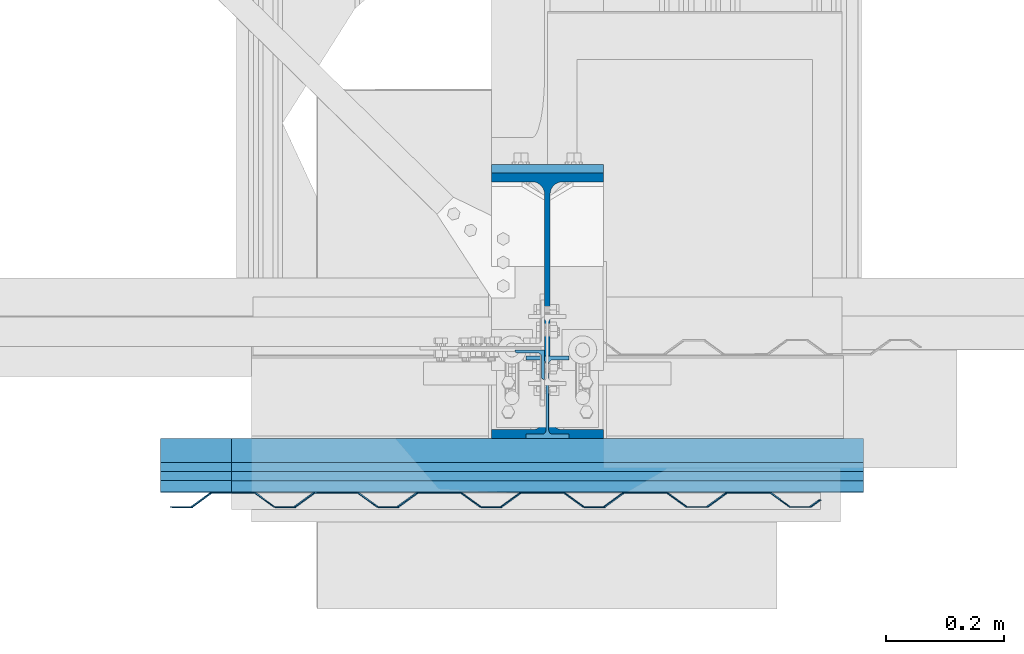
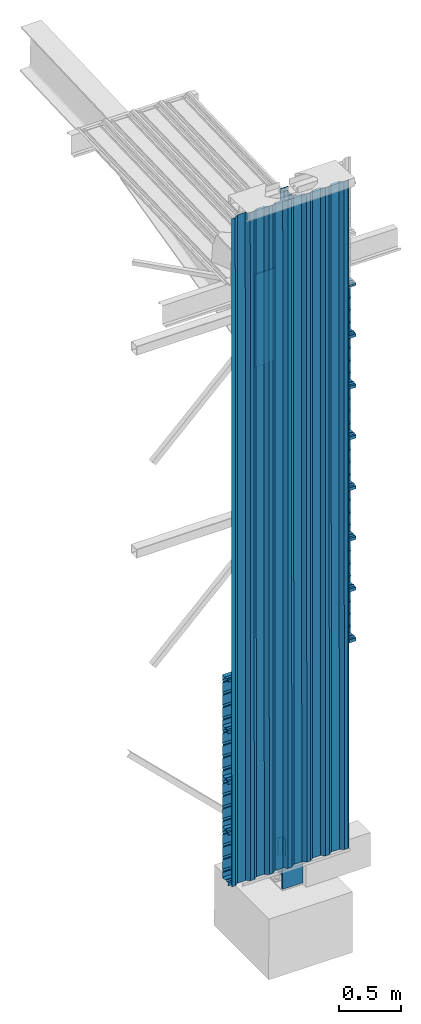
# One storey, part 1 of 18: 12 beams, 4 columns, 16 elements without a shape of their own.
"""IFC2X3 building model written with IfcOpenShell, lengths in millimetres."""

from ifc_helpers import new_model, si_unit, frame, origin_with_axes, origin_2d_with_axis, place, context, subcontext, project, spatial, polyline, rectangle, i_section, l_section, outline, extrude, clip, halfspace, material, type_object, element, aggregate, save


model = new_model("IFC2X3")

# Units and contexts
model_context = context("Model", 3, precision=1e-05, world=origin_with_axes())
body_context = subcontext(model_context, "Body", "Model", "MODEL_VIEW")
ifc_project = project(units=[si_unit("LENGTHUNIT", "METRE", prefix="MILLI"), si_unit("AREAUNIT", "SQUARE_METRE"), si_unit("VOLUMEUNIT", "CUBIC_METRE"), si_unit("MASSUNIT", "GRAM", prefix="KILO"), si_unit("TIMEUNIT", "SECOND"), si_unit("PLANEANGLEUNIT", "RADIAN"), si_unit("SOLIDANGLEUNIT", "STERADIAN"), si_unit("THERMODYNAMICTEMPERATUREUNIT", "DEGREE_CELSIUS"), si_unit("LUMINOUSINTENSITYUNIT", "LUMEN")], contexts=[model_context])

# Site, building, storey
site_placement = place(None, origin_with_axes())
site = spatial("IfcSite", under=ifc_project, at=site_placement, Name="Undefined", CompositionType="ELEMENT")
building_placement = place(site_placement, origin_with_axes())
building = spatial("IfcBuilding", under=site, at=building_placement, Name="Undefined", CompositionType="ELEMENT")
storey_placement = place(building_placement, origin_with_axes())
storey = spatial("IfcBuildingStorey", under=building, at=storey_placement, Name="Undefined", CompositionType="ELEMENT", Elevation=0.0)

# Assembly, column
assembly_1_placement = place(storey_placement, frame((6.79351009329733e-10, 8.99280863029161, 5275.17920428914), z_axis=(1.5865100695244e-13, -0.0399680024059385, 0.999200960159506), x_axis=(-7.50761682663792e-14, 0.999200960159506, 0.0399680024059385)))
assembly_1 = element("IfcElementAssembly", 1, at=assembly_1_placement, inside=storey, Name="POUTRE", PredefinedType="NOTDEFINED")
ifc_material = material(Name="STEEL/S235JR")
column_type_1 = type_object("IfcColumnType", Name="PL15*190", PredefinedType="NOTDEFINED")
column_1_placement = place(storey_placement, frame((5.54948160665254e-10, 232.500000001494, 4588.99989452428), z_axis=(0.0, 0.0, 1.0), x_axis=(1.0, 0.0, 0.0)))
column_1 = element("IfcColumn", 2, at=column_1_placement, type_object=column_type_1, material=ifc_material, Name="PLATINE", ObjectType="PL15*190", context=body_context, shape_type="SweptSolid", body=[
    extrude(rectangle(XDim=15.0, YDim=190.0, at=origin_2d_with_axis()), frame((1.42304013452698e-10, 4.01939814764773e-10, 914.999517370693), z_axis=(2.350712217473e-13, -3.38692037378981e-13, -1.0), x_axis=(0.0, 1.0, 0.0)), (0.0, 0.0, 1.0), 914.999517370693),
])
aggregate(assembly_1, [column_1])

assembly_2_placement = place(storey_placement, frame((7.29021710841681e-10, -154.999999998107, 5499.99998252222), z_axis=(0.0, 1.0, 0.0), x_axis=(0.0, 0.0, 1.0)))
assembly_2 = element("IfcElementAssembly", 3, at=assembly_2_placement, inside=storey, Name="Baïonnette", PredefinedType="NOTDEFINED")
column_type_2 = type_object("IfcColumnType", Name="IPE140", PredefinedType="NOTDEFINED")
column_2_placement = place(storey_placement, frame((7.29021710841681e-10, -154.999999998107, 5499.99998252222), z_axis=(0.0, 0.0, 1.0), x_axis=(1.0, 0.0, 0.0)))
column_2 = element("IfcColumn", 4, at=column_2_placement, type_object=column_type_2, material=ifc_material, Name="BAIONNETTE", ObjectType="IPE140", context=body_context, shape_type="Clipping", body=[
    clip(extrude(i_section(OverallWidth=73.0, OverallDepth=140.0, WebThickness=4.699999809, FlangeThickness=6.900000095, FilletRadius=7.0, at=origin_2d_with_axis()), frame((1.58945092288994e-10, 0.000255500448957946, 1022.00000000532), z_axis=(2.350712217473e-13, -3.38692037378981e-13, -1.0), x_axis=(-1.0, 0.0, 0.0)), (0.0, 0.0, 1.0), 1022.00000000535), halfspace(frame((36.5000000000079, -69.9999999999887, 13.9994293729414), z_axis=(2.350712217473e-13, -3.38692037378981e-13, -1.0), x_axis=(0.0, 1.0, 0.0)), False)),
])
aggregate(assembly_2, [column_2])

assembly_3_placement = place(storey_placement, frame((2.06348271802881e-11, 3.86737777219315e-11, -299.999999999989), z_axis=(0.0, 1.0, 0.0), x_axis=(0.0, 0.0, 1.0)))
assembly_3 = element("IfcElementAssembly", 5, at=assembly_3_placement, inside=storey, Name="POTEAU", PredefinedType="NOTDEFINED")
column_type_3 = type_object("IfcColumnType", Name="IPE450", PredefinedType="NOTDEFINED")
column_3_placement = place(storey_placement, frame((2.06348271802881e-11, 3.86737777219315e-11, -299.999999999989), z_axis=(0.0, 0.0, 1.0), x_axis=(1.0, 0.0, 0.0)))
column_3 = element("IfcColumn", 6, at=column_3_placement, type_object=column_type_3, material=ifc_material, Name="POTEAU", ObjectType="IPE450", context=body_context, shape_type="SweptSolid", body=[
    extrude(i_section(OverallWidth=190.0, OverallDepth=450.0, WebThickness=9.399999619, FlangeThickness=14.60000038, FilletRadius=21.0, at=origin_2d_with_axis()), frame((9.02658848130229e-10, 2.54961534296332e-09, 5803.99941189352), z_axis=(2.350712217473e-13, -3.38692037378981e-13, -1.0), x_axis=(-1.0, 0.0, 0.0)), (0.0, 0.0, 1.0), 5788.99941189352),
])
aggregate(assembly_3, [column_3])

assembly_4_placement = place(storey_placement, frame((-29.6999998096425, -99.9952071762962, -54.4168216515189), z_axis=(-1.0, 0.0, 0.0), x_axis=(4.07648518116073e-14, -3.19109991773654e-05, 0.999999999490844)))
assembly_4 = element("IfcElementAssembly", 7, at=assembly_4_placement, inside=storey, Name="CV", PredefinedType="NOTDEFINED")
column_type_4 = type_object("IfcColumnType", Name="L50*5", PredefinedType="NOTDEFINED")
column_4_placement = place(storey_placement, frame((-29.6999998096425, -99.9952071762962, -54.4168216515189), z_axis=(0.0, 0.0, 1.0), x_axis=(1.0, 0.0, 0.0)))
column_4 = element("IfcColumn", 8, at=column_4_placement, type_object=column_type_4, material=ifc_material, Name="ATTACHE CV", ObjectType="L50*5", context=body_context, shape_type="SweptSolid", body=[
    extrude(l_section(Depth=50.0, Width=50.0, Thickness=5.0, FilletRadius=7.0, EdgeRadius=3.5, at=origin_2d_with_axis()), frame((2.72173394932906e-11, -0.00558442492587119, 174.999999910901), z_axis=(2.35338842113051e-13, 3.18999996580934e-05, -0.999999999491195), x_axis=(2.86064505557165e-14, -0.999999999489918, -3.19400002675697e-05)), (0.0, 0.0, 1.0), 175.000000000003),
])
aggregate(assembly_4, [column_4])

# Assembly, beam
assembly_5_placement = place(storey_placement, frame((-656.499909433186, -270.908790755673, 279.851131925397), z_axis=(0.0, 0.999999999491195, 3.190000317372e-05), x_axis=(1.0, 0.0, 0.0)))
assembly_5 = element("IfcElementAssembly", 9, at=assembly_5_placement, inside=storey, Name="bac", PredefinedType="NOTDEFINED")
beam_type_1 = type_object("IfcBeamType", Name="ARCLAD_FPB_MURESCO_1.500.90_BS_75", PredefinedType="NOTDEFINED")
beam_1_placement = place(storey_placement, frame((-656.499909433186, -270.908790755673, 279.851131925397), z_axis=(0.0, 0.999999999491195, 3.190000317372e-05), x_axis=(1.0, 0.0, 0.0)))
beam_1 = element("IfcBeam", 10, at=beam_1_placement, type_object=beam_type_1, material=ifc_material, Name="BAC", ObjectType="ARCLAD_FPB_MURESCO_1.500.90_BS_75", context=body_context, shape_type="SweptSolid", body=[
    extrude(outline(polyline([(-278.0, -36.0), (-279.0, -36.0), (-279.0, -46.0), (-249.0, -46.0), (-249.0, -26.3500003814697), (-241.050003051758, -10.6700000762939), (-249.0, 5.01999998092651), (-249.0, 45.0), (-200.679992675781, 45.0), (-185.0, 37.0499992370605), (-169.320007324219, 45.0), (-77.3499984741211, 45.0), (-61.6699981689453, 37.0499992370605), (-45.9799995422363, 45.0), (45.9799995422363, 45.0), (61.6699981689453, 37.0499992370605), (77.3499984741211, 45.0), (169.320007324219, 45.0), (185.0, 37.0499992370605), (200.679992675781, 45.0), (249.0, 45.0), (249.0, 5.01999998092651), (241.050003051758, -10.6700000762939), (249.0, -26.3500003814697), (249.0, -44.0), (230.330001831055, -44.0), (225.949996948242, -40.7400016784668), (225.350006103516, -41.5400009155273), (230.0, -45.0), (250.0, -45.0), (250.0, -26.1100006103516), (242.169998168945, -10.6700000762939), (250.0, 4.78000020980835), (250.0, 46.0), (200.440002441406, 46.0), (185.0, 38.1699981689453), (169.559997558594, 46.0), (77.1100006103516, 46.0), (61.6699981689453, 38.1699981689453), (46.2200012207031, 46.0), (-46.2200012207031, 46.0), (-61.6699981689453, 38.1699981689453), (-77.1100006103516, 46.0), (-169.559997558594, 46.0), (-185.0, 38.1699981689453), (-200.440002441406, 46.0), (-250.0, 46.0), (-250.0, 4.78000020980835), (-242.169998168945, -10.6700000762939), (-250.0, -26.1100006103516), (-250.0, -45.0), (-278.0, -45.0), (-278.0, -36.0)])), frame((1073.0, 0.0, -3.55441926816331e-28), z_axis=(-1.0, 0.0, 0.0), x_axis=(0.0, -1.0, -6.7762635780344e-21)), (0.0, 0.0, 1.0), 1073.0),
])
aggregate(assembly_5, [beam_1])

assembly_6_placement = place(storey_placement, frame((-656.499909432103, -270.908790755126, 779.851131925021), z_axis=(0.0, 0.999999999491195, 3.190000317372e-05), x_axis=(1.0, 0.0, 0.0)))
assembly_6 = element("IfcElementAssembly", 11, at=assembly_6_placement, inside=storey, Name="bac", PredefinedType="NOTDEFINED")
beam_2_placement = place(storey_placement, frame((-656.499909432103, -270.908790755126, 779.851131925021), z_axis=(0.0, 0.999999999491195, 3.190000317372e-05), x_axis=(1.0, 0.0, 0.0)))
beam_2 = element("IfcBeam", 12, at=beam_2_placement, type_object=beam_type_1, material=ifc_material, Name="BAC", ObjectType="ARCLAD_FPB_MURESCO_1.500.90_BS_75", context=body_context, shape_type="SweptSolid", body=[
    extrude(outline(polyline([(-278.0, -36.0), (-279.0, -36.0), (-279.0, -46.0), (-249.0, -46.0), (-249.0, -26.3500003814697), (-241.050003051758, -10.6700000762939), (-249.0, 5.01999998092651), (-249.0, 45.0), (-200.679992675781, 45.0), (-185.0, 37.0499992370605), (-169.320007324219, 45.0), (-77.3499984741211, 45.0), (-61.6699981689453, 37.0499992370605), (-45.9799995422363, 45.0), (45.9799995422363, 45.0), (61.6699981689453, 37.0499992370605), (77.3499984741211, 45.0), (169.320007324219, 45.0), (185.0, 37.0499992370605), (200.679992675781, 45.0), (249.0, 45.0), (249.0, 5.01999998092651), (241.050003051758, -10.6700000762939), (249.0, -26.3500003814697), (249.0, -44.0), (230.330001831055, -44.0), (225.949996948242, -40.7400016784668), (225.350006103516, -41.5400009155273), (230.0, -45.0), (250.0, -45.0), (250.0, -26.1100006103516), (242.169998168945, -10.6700000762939), (250.0, 4.78000020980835), (250.0, 46.0), (200.440002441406, 46.0), (185.0, 38.1699981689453), (169.559997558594, 46.0), (77.1100006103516, 46.0), (61.6699981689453, 38.1699981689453), (46.2200012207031, 46.0), (-46.2200012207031, 46.0), (-61.6699981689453, 38.1699981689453), (-77.1100006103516, 46.0), (-169.559997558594, 46.0), (-185.0, 38.1699981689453), (-200.440002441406, 46.0), (-250.0, 46.0), (-250.0, 4.78000020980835), (-242.169998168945, -10.6700000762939), (-250.0, -26.1100006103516), (-250.0, -45.0), (-278.0, -45.0), (-278.0, -36.0)])), frame((1073.0, 0.0, -3.55441926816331e-28), z_axis=(-1.0, 0.0, 0.0), x_axis=(0.0, -1.0, -6.7762635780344e-21)), (0.0, 0.0, 1.0), 1073.0),
])
aggregate(assembly_6, [beam_2])

assembly_7_placement = place(storey_placement, frame((-656.499909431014, -270.908790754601, 1279.85113192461), z_axis=(0.0, 0.999999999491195, 3.190000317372e-05), x_axis=(1.0, 0.0, 0.0)))
assembly_7 = element("IfcElementAssembly", 13, at=assembly_7_placement, inside=storey, Name="bac", PredefinedType="NOTDEFINED")
beam_3_placement = place(storey_placement, frame((-656.499909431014, -270.908790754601, 1279.85113192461), z_axis=(0.0, 0.999999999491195, 3.190000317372e-05), x_axis=(1.0, 0.0, 0.0)))
beam_3 = element("IfcBeam", 14, at=beam_3_placement, type_object=beam_type_1, material=ifc_material, Name="BAC", ObjectType="ARCLAD_FPB_MURESCO_1.500.90_BS_75", context=body_context, shape_type="SweptSolid", body=[
    extrude(outline(polyline([(-278.0, -36.0), (-279.0, -36.0), (-279.0, -46.0), (-249.0, -46.0), (-249.0, -26.3500003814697), (-241.050003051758, -10.6700000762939), (-249.0, 5.01999998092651), (-249.0, 45.0), (-200.679992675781, 45.0), (-185.0, 37.0499992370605), (-169.320007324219, 45.0), (-77.3499984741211, 45.0), (-61.6699981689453, 37.0499992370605), (-45.9799995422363, 45.0), (45.9799995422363, 45.0), (61.6699981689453, 37.0499992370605), (77.3499984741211, 45.0), (169.320007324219, 45.0), (185.0, 37.0499992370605), (200.679992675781, 45.0), (249.0, 45.0), (249.0, 5.01999998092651), (241.050003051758, -10.6700000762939), (249.0, -26.3500003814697), (249.0, -44.0), (230.330001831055, -44.0), (225.949996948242, -40.7400016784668), (225.350006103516, -41.5400009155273), (230.0, -45.0), (250.0, -45.0), (250.0, -26.1100006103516), (242.169998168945, -10.6700000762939), (250.0, 4.78000020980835), (250.0, 46.0), (200.440002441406, 46.0), (185.0, 38.1699981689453), (169.559997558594, 46.0), (77.1100006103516, 46.0), (61.6699981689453, 38.1699981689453), (46.2200012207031, 46.0), (-46.2200012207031, 46.0), (-61.6699981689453, 38.1699981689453), (-77.1100006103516, 46.0), (-169.559997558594, 46.0), (-185.0, 38.1699981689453), (-200.440002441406, 46.0), (-250.0, 46.0), (-250.0, 4.78000020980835), (-242.169998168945, -10.6700000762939), (-250.0, -26.1100006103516), (-250.0, -45.0), (-278.0, -45.0), (-278.0, -36.0)])), frame((1073.0, 0.0, -3.55441926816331e-28), z_axis=(-1.0, 0.0, 0.0), x_axis=(0.0, -1.0, -6.7762635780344e-21)), (0.0, 0.0, 1.0), 1073.0),
])
aggregate(assembly_7, [beam_3])

assembly_8_placement = place(storey_placement, frame((-656.499909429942, -270.908790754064, 1779.85113192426), z_axis=(0.0, 0.999999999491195, 3.190000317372e-05), x_axis=(1.0, 0.0, 0.0)))
assembly_8 = element("IfcElementAssembly", 15, at=assembly_8_placement, inside=storey, Name="bac", PredefinedType="NOTDEFINED")
beam_4_placement = place(storey_placement, frame((-656.499909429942, -270.908790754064, 1779.85113192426), z_axis=(0.0, 0.999999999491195, 3.190000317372e-05), x_axis=(1.0, 0.0, 0.0)))
beam_4 = element("IfcBeam", 16, at=beam_4_placement, type_object=beam_type_1, material=ifc_material, Name="BAC", ObjectType="ARCLAD_FPB_MURESCO_1.500.90_BS_75", context=body_context, shape_type="SweptSolid", body=[
    extrude(outline(polyline([(-278.0, -36.0), (-279.0, -36.0), (-279.0, -46.0), (-249.0, -46.0), (-249.0, -26.3500003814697), (-241.050003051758, -10.6700000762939), (-249.0, 5.01999998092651), (-249.0, 45.0), (-200.679992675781, 45.0), (-185.0, 37.0499992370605), (-169.320007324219, 45.0), (-77.3499984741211, 45.0), (-61.6699981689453, 37.0499992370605), (-45.9799995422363, 45.0), (45.9799995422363, 45.0), (61.6699981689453, 37.0499992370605), (77.3499984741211, 45.0), (169.320007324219, 45.0), (185.0, 37.0499992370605), (200.679992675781, 45.0), (249.0, 45.0), (249.0, 5.01999998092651), (241.050003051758, -10.6700000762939), (249.0, -26.3500003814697), (249.0, -44.0), (230.330001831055, -44.0), (225.949996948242, -40.7400016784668), (225.350006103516, -41.5400009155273), (230.0, -45.0), (250.0, -45.0), (250.0, -26.1100006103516), (242.169998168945, -10.6700000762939), (250.0, 4.78000020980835), (250.0, 46.0), (200.440002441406, 46.0), (185.0, 38.1699981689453), (169.559997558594, 46.0), (77.1100006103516, 46.0), (61.6699981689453, 38.1699981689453), (46.2200012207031, 46.0), (-46.2200012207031, 46.0), (-61.6699981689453, 38.1699981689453), (-77.1100006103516, 46.0), (-169.559997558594, 46.0), (-185.0, 38.1699981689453), (-200.440002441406, 46.0), (-250.0, 46.0), (-250.0, 4.78000020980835), (-242.169998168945, -10.6700000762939), (-250.0, -26.1100006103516), (-250.0, -45.0), (-278.0, -45.0), (-278.0, -36.0)])), frame((1073.0, 0.0, -3.55441926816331e-28), z_axis=(-1.0, 0.0, 0.0), x_axis=(0.0, -1.0, -6.7762635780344e-21)), (0.0, 0.0, 1.0), 1073.0),
])
aggregate(assembly_8, [beam_4])

assembly_9_placement = place(storey_placement, frame((-536.50000000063, -270.912265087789, 2279.99853221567), z_axis=(0.0, 0.999999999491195, 3.190000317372e-05), x_axis=(1.0, 0.0, 0.0)))
assembly_9 = element("IfcElementAssembly", 17, at=assembly_9_placement, inside=storey, Name="bac", PredefinedType="NOTDEFINED")
beam_5_placement = place(storey_placement, frame((-536.50000000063, -270.912265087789, 2279.99853221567), z_axis=(0.0, 0.999999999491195, 3.190000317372e-05), x_axis=(1.0, 0.0, 0.0)))
beam_5 = element("IfcBeam", 18, at=beam_5_placement, type_object=beam_type_1, material=ifc_material, Name="BAC", ObjectType="ARCLAD_FPB_MURESCO_1.500.90_BS_75", context=body_context, shape_type="SweptSolid", body=[
    extrude(outline(polyline([(-278.0, -36.0), (-279.0, -36.0), (-279.0, -46.0), (-249.0, -46.0), (-249.0, -26.3500003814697), (-241.050003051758, -10.6700000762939), (-249.0, 5.01999998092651), (-249.0, 45.0), (-200.679992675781, 45.0), (-185.0, 37.0499992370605), (-169.320007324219, 45.0), (-77.3499984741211, 45.0), (-61.6699981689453, 37.0499992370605), (-45.9799995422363, 45.0), (45.9799995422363, 45.0), (61.6699981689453, 37.0499992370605), (77.3499984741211, 45.0), (169.320007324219, 45.0), (185.0, 37.0499992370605), (200.679992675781, 45.0), (249.0, 45.0), (249.0, 5.01999998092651), (241.050003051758, -10.6700000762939), (249.0, -26.3500003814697), (249.0, -44.0), (230.330001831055, -44.0), (225.949996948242, -40.7400016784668), (225.350006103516, -41.5400009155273), (230.0, -45.0), (250.0, -45.0), (250.0, -26.1100006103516), (242.169998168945, -10.6700000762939), (250.0, 4.78000020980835), (250.0, 46.0), (200.440002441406, 46.0), (185.0, 38.1699981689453), (169.559997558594, 46.0), (77.1100006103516, 46.0), (61.6699981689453, 38.1699981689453), (46.2200012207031, 46.0), (-46.2200012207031, 46.0), (-61.6699981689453, 38.1699981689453), (-77.1100006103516, 46.0), (-169.559997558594, 46.0), (-185.0, 38.1699981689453), (-200.440002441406, 46.0), (-250.0, 46.0), (-250.0, 4.78000020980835), (-242.169998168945, -10.6700000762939), (-250.0, -26.1100006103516), (-250.0, -45.0), (-278.0, -45.0), (-278.0, -36.0)])), frame((1073.0, 0.0, -3.55441926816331e-28), z_axis=(-1.0, 0.0, 0.0), x_axis=(0.0, -1.0, -6.7762635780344e-21)), (0.0, 0.0, 1.0), 1073.0),
])
aggregate(assembly_9, [beam_5])

assembly_10_placement = place(storey_placement, frame((-536.500000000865, -270.912265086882, 3279.99853221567), z_axis=(0.0, 0.999999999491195, 3.190000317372e-05), x_axis=(1.0, 0.0, 0.0)))
assembly_10 = element("IfcElementAssembly", 19, at=assembly_10_placement, inside=storey, Name="bac", PredefinedType="NOTDEFINED")
beam_6_placement = place(storey_placement, frame((-536.500000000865, -270.912265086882, 3279.99853221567), z_axis=(0.0, 0.999999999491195, 3.190000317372e-05), x_axis=(1.0, 0.0, 0.0)))
beam_6 = element("IfcBeam", 20, at=beam_6_placement, type_object=beam_type_1, material=ifc_material, Name="BAC", ObjectType="ARCLAD_FPB_MURESCO_1.500.90_BS_75", context=body_context, shape_type="SweptSolid", body=[
    extrude(outline(polyline([(-278.0, -36.0), (-279.0, -36.0), (-279.0, -46.0), (-249.0, -46.0), (-249.0, -26.3500003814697), (-241.050003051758, -10.6700000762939), (-249.0, 5.01999998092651), (-249.0, 45.0), (-200.679992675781, 45.0), (-185.0, 37.0499992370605), (-169.320007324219, 45.0), (-77.3499984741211, 45.0), (-61.6699981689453, 37.0499992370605), (-45.9799995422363, 45.0), (45.9799995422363, 45.0), (61.6699981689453, 37.0499992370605), (77.3499984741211, 45.0), (169.320007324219, 45.0), (185.0, 37.0499992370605), (200.679992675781, 45.0), (249.0, 45.0), (249.0, 5.01999998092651), (241.050003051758, -10.6700000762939), (249.0, -26.3500003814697), (249.0, -44.0), (230.330001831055, -44.0), (225.949996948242, -40.7400016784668), (225.350006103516, -41.5400009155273), (230.0, -45.0), (250.0, -45.0), (250.0, -26.1100006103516), (242.169998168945, -10.6700000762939), (250.0, 4.78000020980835), (250.0, 46.0), (200.440002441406, 46.0), (185.0, 38.1699981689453), (169.559997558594, 46.0), (77.1100006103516, 46.0), (61.6699981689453, 38.1699981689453), (46.2200012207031, 46.0), (-46.2200012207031, 46.0), (-61.6699981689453, 38.1699981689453), (-77.1100006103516, 46.0), (-169.559997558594, 46.0), (-185.0, 38.1699981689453), (-200.440002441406, 46.0), (-250.0, 46.0), (-250.0, 4.78000020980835), (-242.169998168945, -10.6700000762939), (-250.0, -26.1100006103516), (-250.0, -45.0), (-278.0, -45.0), (-278.0, -36.0)])), frame((1073.0, 0.0, -3.55441926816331e-28), z_axis=(-1.0, 0.0, 0.0), x_axis=(0.0, -1.0, -6.7762635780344e-21)), (0.0, 0.0, 1.0), 1073.0),
])
aggregate(assembly_10, [beam_6])

assembly_11_placement = place(storey_placement, frame((-536.500000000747, -270.912265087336, 2779.99853221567), z_axis=(0.0, 0.999999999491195, 3.190000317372e-05), x_axis=(1.0, 0.0, 0.0)))
assembly_11 = element("IfcElementAssembly", 21, at=assembly_11_placement, inside=storey, Name="bac", PredefinedType="NOTDEFINED")
beam_7_placement = place(storey_placement, frame((-536.500000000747, -270.912265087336, 2779.99853221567), z_axis=(0.0, 0.999999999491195, 3.190000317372e-05), x_axis=(1.0, 0.0, 0.0)))
beam_7 = element("IfcBeam", 22, at=beam_7_placement, type_object=beam_type_1, material=ifc_material, Name="BAC", ObjectType="ARCLAD_FPB_MURESCO_1.500.90_BS_75", context=body_context, shape_type="SweptSolid", body=[
    extrude(outline(polyline([(-278.0, -36.0), (-279.0, -36.0), (-279.0, -46.0), (-249.0, -46.0), (-249.0, -26.3500003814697), (-241.050003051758, -10.6700000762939), (-249.0, 5.01999998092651), (-249.0, 45.0), (-200.679992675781, 45.0), (-185.0, 37.0499992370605), (-169.320007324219, 45.0), (-77.3499984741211, 45.0), (-61.6699981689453, 37.0499992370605), (-45.9799995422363, 45.0), (45.9799995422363, 45.0), (61.6699981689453, 37.0499992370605), (77.3499984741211, 45.0), (169.320007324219, 45.0), (185.0, 37.0499992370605), (200.679992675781, 45.0), (249.0, 45.0), (249.0, 5.01999998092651), (241.050003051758, -10.6700000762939), (249.0, -26.3500003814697), (249.0, -44.0), (230.330001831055, -44.0), (225.949996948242, -40.7400016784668), (225.350006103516, -41.5400009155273), (230.0, -45.0), (250.0, -45.0), (250.0, -26.1100006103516), (242.169998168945, -10.6700000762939), (250.0, 4.78000020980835), (250.0, 46.0), (200.440002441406, 46.0), (185.0, 38.1699981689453), (169.559997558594, 46.0), (77.1100006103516, 46.0), (61.6699981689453, 38.1699981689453), (46.2200012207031, 46.0), (-46.2200012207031, 46.0), (-61.6699981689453, 38.1699981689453), (-77.1100006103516, 46.0), (-169.559997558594, 46.0), (-185.0, 38.1699981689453), (-200.440002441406, 46.0), (-250.0, 46.0), (-250.0, 4.78000020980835), (-242.169998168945, -10.6700000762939), (-250.0, -26.1100006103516), (-250.0, -45.0), (-278.0, -45.0), (-278.0, -36.0)])), frame((1073.0, 0.0, -3.55441926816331e-28), z_axis=(-1.0, 0.0, 0.0), x_axis=(0.0, -1.0, -6.7762635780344e-21)), (0.0, 0.0, 1.0), 1073.0),
])
aggregate(assembly_11, [beam_7])

assembly_12_placement = place(storey_placement, frame((-536.499999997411, -270.912265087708, 3779.99853222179), z_axis=(0.0, 0.999999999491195, 3.190000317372e-05), x_axis=(1.0, 0.0, 0.0)))
assembly_12 = element("IfcElementAssembly", 23, at=assembly_12_placement, inside=storey, Name="bac", PredefinedType="NOTDEFINED")
beam_8_placement = place(storey_placement, frame((-536.499999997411, -270.912265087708, 3779.99853222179), z_axis=(0.0, 0.999999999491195, 3.190000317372e-05), x_axis=(1.0, 0.0, 0.0)))
beam_8 = element("IfcBeam", 24, at=beam_8_placement, type_object=beam_type_1, material=ifc_material, Name="BAC", ObjectType="ARCLAD_FPB_MURESCO_1.500.90_BS_75", context=body_context, shape_type="SweptSolid", body=[
    extrude(outline(polyline([(-278.0, -36.0), (-279.0, -36.0), (-279.0, -46.0), (-249.0, -46.0), (-249.0, -26.3500003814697), (-241.050003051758, -10.6700000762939), (-249.0, 5.01999998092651), (-249.0, 45.0), (-200.679992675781, 45.0), (-185.0, 37.0499992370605), (-169.320007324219, 45.0), (-77.3499984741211, 45.0), (-61.6699981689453, 37.0499992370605), (-45.9799995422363, 45.0), (45.9799995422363, 45.0), (61.6699981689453, 37.0499992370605), (77.3499984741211, 45.0), (169.320007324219, 45.0), (185.0, 37.0499992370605), (200.679992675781, 45.0), (249.0, 45.0), (249.0, 5.01999998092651), (241.050003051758, -10.6700000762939), (249.0, -26.3500003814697), (249.0, -44.0), (230.330001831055, -44.0), (225.949996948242, -40.7400016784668), (225.350006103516, -41.5400009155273), (230.0, -45.0), (250.0, -45.0), (250.0, -26.1100006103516), (242.169998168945, -10.6700000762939), (250.0, 4.78000020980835), (250.0, 46.0), (200.440002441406, 46.0), (185.0, 38.1699981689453), (169.559997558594, 46.0), (77.1100006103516, 46.0), (61.6699981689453, 38.1699981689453), (46.2200012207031, 46.0), (-46.2200012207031, 46.0), (-61.6699981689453, 38.1699981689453), (-77.1100006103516, 46.0), (-169.559997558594, 46.0), (-185.0, 38.1699981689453), (-200.440002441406, 46.0), (-250.0, 46.0), (-250.0, 4.78000020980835), (-242.169998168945, -10.6700000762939), (-250.0, -26.1100006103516), (-250.0, -45.0), (-278.0, -45.0), (-278.0, -36.0)])), frame((1073.0, 0.0, -3.55441926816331e-28), z_axis=(-1.0, 0.0, 0.0), x_axis=(0.0, -1.0, -6.7762635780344e-21)), (0.0, 0.0, 1.0), 1073.0),
])
aggregate(assembly_12, [beam_8])

assembly_13_placement = place(storey_placement, frame((-536.499999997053, -270.928215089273, 4279.99853196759), z_axis=(0.0, 0.999999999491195, 3.190000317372e-05), x_axis=(1.0, 0.0, 0.0)))
assembly_13 = element("IfcElementAssembly", 25, at=assembly_13_placement, inside=storey, Name="bac", PredefinedType="NOTDEFINED")
beam_9_placement = place(storey_placement, frame((-536.499999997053, -270.928215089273, 4279.99853196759), z_axis=(0.0, 0.999999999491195, 3.190000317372e-05), x_axis=(1.0, 0.0, 0.0)))
beam_9 = element("IfcBeam", 26, at=beam_9_placement, type_object=beam_type_1, material=ifc_material, Name="BAC", ObjectType="ARCLAD_FPB_MURESCO_1.500.90_BS_75", context=body_context, shape_type="SweptSolid", body=[
    extrude(outline(polyline([(-278.0, -36.0), (-279.0, -36.0), (-279.0, -46.0), (-249.0, -46.0), (-249.0, -26.3500003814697), (-241.050003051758, -10.6700000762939), (-249.0, 5.01999998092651), (-249.0, 45.0), (-200.679992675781, 45.0), (-185.0, 37.0499992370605), (-169.320007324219, 45.0), (-77.3499984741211, 45.0), (-61.6699981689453, 37.0499992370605), (-45.9799995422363, 45.0), (45.9799995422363, 45.0), (61.6699981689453, 37.0499992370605), (77.3499984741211, 45.0), (169.320007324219, 45.0), (185.0, 37.0499992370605), (200.679992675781, 45.0), (249.0, 45.0), (249.0, 5.01999998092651), (241.050003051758, -10.6700000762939), (249.0, -26.3500003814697), (249.0, -44.0), (230.330001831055, -44.0), (225.949996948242, -40.7400016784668), (225.350006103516, -41.5400009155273), (230.0, -45.0), (250.0, -45.0), (250.0, -26.1100006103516), (242.169998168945, -10.6700000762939), (250.0, 4.78000020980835), (250.0, 46.0), (200.440002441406, 46.0), (185.0, 38.1699981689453), (169.559997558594, 46.0), (77.1100006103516, 46.0), (61.6699981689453, 38.1699981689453), (46.2200012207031, 46.0), (-46.2200012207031, 46.0), (-61.6699981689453, 38.1699981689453), (-77.1100006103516, 46.0), (-169.559997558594, 46.0), (-185.0, 38.1699981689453), (-200.440002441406, 46.0), (-250.0, 46.0), (-250.0, 4.78000020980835), (-242.169998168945, -10.6700000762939), (-250.0, -26.1100006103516), (-250.0, -45.0), (-278.0, -45.0), (-278.0, -36.0)])), frame((1073.0, 0.0, -3.55441926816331e-28), z_axis=(-1.0, 0.0, 0.0), x_axis=(0.0, -1.0, -6.7762635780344e-21)), (0.0, 0.0, 1.0), 1073.0),
])
aggregate(assembly_13, [beam_9])

assembly_14_placement = place(storey_placement, frame((-536.499999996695, -270.944165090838, 4779.99853171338), z_axis=(0.0, 0.999999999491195, 3.190000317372e-05), x_axis=(1.0, 0.0, 0.0)))
assembly_14 = element("IfcElementAssembly", 27, at=assembly_14_placement, inside=storey, Name="bac", PredefinedType="NOTDEFINED")
beam_10_placement = place(storey_placement, frame((-536.499999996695, -270.944165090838, 4779.99853171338), z_axis=(0.0, 0.999999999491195, 3.190000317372e-05), x_axis=(1.0, 0.0, 0.0)))
beam_10 = element("IfcBeam", 28, at=beam_10_placement, type_object=beam_type_1, material=ifc_material, Name="BAC", ObjectType="ARCLAD_FPB_MURESCO_1.500.90_BS_75", context=body_context, shape_type="SweptSolid", body=[
    extrude(outline(polyline([(-278.0, -36.0), (-279.0, -36.0), (-279.0, -46.0), (-249.0, -46.0), (-249.0, -26.3500003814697), (-241.050003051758, -10.6700000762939), (-249.0, 5.01999998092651), (-249.0, 45.0), (-200.679992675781, 45.0), (-185.0, 37.0499992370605), (-169.320007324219, 45.0), (-77.3499984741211, 45.0), (-61.6699981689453, 37.0499992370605), (-45.9799995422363, 45.0), (45.9799995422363, 45.0), (61.6699981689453, 37.0499992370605), (77.3499984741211, 45.0), (169.320007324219, 45.0), (185.0, 37.0499992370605), (200.679992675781, 45.0), (249.0, 45.0), (249.0, 5.01999998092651), (241.050003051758, -10.6700000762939), (249.0, -26.3500003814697), (249.0, -44.0), (230.330001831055, -44.0), (225.949996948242, -40.7400016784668), (225.350006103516, -41.5400009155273), (230.0, -45.0), (250.0, -45.0), (250.0, -26.1100006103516), (242.169998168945, -10.6700000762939), (250.0, 4.78000020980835), (250.0, 46.0), (200.440002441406, 46.0), (185.0, 38.1699981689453), (169.559997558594, 46.0), (77.1100006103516, 46.0), (61.6699981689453, 38.1699981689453), (46.2200012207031, 46.0), (-46.2200012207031, 46.0), (-61.6699981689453, 38.1699981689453), (-77.1100006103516, 46.0), (-169.559997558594, 46.0), (-185.0, 38.1699981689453), (-200.440002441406, 46.0), (-250.0, 46.0), (-250.0, 4.78000020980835), (-242.169998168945, -10.6700000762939), (-250.0, -26.1100006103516), (-250.0, -45.0), (-278.0, -45.0), (-278.0, -36.0)])), frame((1073.0, 0.0, -3.55441926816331e-28), z_axis=(-1.0, 0.0, 0.0), x_axis=(0.0, -1.0, -6.7762635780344e-21)), (0.0, 0.0, 1.0), 1073.0),
])
aggregate(assembly_14, [beam_10])

assembly_15_placement = place(storey_placement, frame((-536.499999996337, -270.960115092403, 5279.99853145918), z_axis=(0.0, 0.999999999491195, 3.190000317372e-05), x_axis=(1.0, 0.0, 0.0)))
assembly_15 = element("IfcElementAssembly", 29, at=assembly_15_placement, inside=storey, Name="bac", PredefinedType="NOTDEFINED")
beam_11_placement = place(storey_placement, frame((-536.499999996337, -270.960115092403, 5279.99853145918), z_axis=(0.0, 0.999999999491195, 3.190000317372e-05), x_axis=(1.0, 0.0, 0.0)))
beam_11 = element("IfcBeam", 30, at=beam_11_placement, type_object=beam_type_1, material=ifc_material, Name="BAC", ObjectType="ARCLAD_FPB_MURESCO_1.500.90_BS_75", context=body_context, shape_type="SweptSolid", body=[
    extrude(outline(polyline([(-278.0, -36.0), (-279.0, -36.0), (-279.0, -46.0), (-249.0, -46.0), (-249.0, -26.3500003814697), (-241.050003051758, -10.6700000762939), (-249.0, 5.01999998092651), (-249.0, 45.0), (-200.679992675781, 45.0), (-185.0, 37.0499992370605), (-169.320007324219, 45.0), (-77.3499984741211, 45.0), (-61.6699981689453, 37.0499992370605), (-45.9799995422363, 45.0), (45.9799995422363, 45.0), (61.6699981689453, 37.0499992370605), (77.3499984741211, 45.0), (169.320007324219, 45.0), (185.0, 37.0499992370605), (200.679992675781, 45.0), (249.0, 45.0), (249.0, 5.01999998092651), (241.050003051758, -10.6700000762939), (249.0, -26.3500003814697), (249.0, -44.0), (230.330001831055, -44.0), (225.949996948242, -40.7400016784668), (225.350006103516, -41.5400009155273), (230.0, -45.0), (250.0, -45.0), (250.0, -26.1100006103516), (242.169998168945, -10.6700000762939), (250.0, 4.78000020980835), (250.0, 46.0), (200.440002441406, 46.0), (185.0, 38.1699981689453), (169.559997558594, 46.0), (77.1100006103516, 46.0), (61.6699981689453, 38.1699981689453), (46.2200012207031, 46.0), (-46.2200012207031, 46.0), (-61.6699981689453, 38.1699981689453), (-77.1100006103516, 46.0), (-169.559997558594, 46.0), (-185.0, 38.1699981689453), (-200.440002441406, 46.0), (-250.0, 46.0), (-250.0, 4.78000020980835), (-242.169998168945, -10.6700000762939), (-250.0, -26.1100006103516), (-250.0, -45.0), (-278.0, -45.0), (-278.0, -36.0)])), frame((1073.0, 0.0, -3.55441926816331e-28), z_axis=(-1.0, 0.0, 0.0), x_axis=(0.0, -1.0, -6.7762635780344e-21)), (0.0, 0.0, 1.0), 1073.0),
])
aggregate(assembly_15, [beam_11])

assembly_16_placement = place(storey_placement, frame((-94.4829573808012, -329.969308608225, 0.074168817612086), z_axis=(-0.000112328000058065, 0.999999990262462, -8.2809999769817e-05), x_axis=(-0.000422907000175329, 8.27619997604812e-05, 0.999999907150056)))
assembly_16 = element("IfcElementAssembly", 31, at=assembly_16_placement, inside=storey, Name="contrebardage", PredefinedType="NOTDEFINED")
beam_type_2 = type_object("IfcBeamType", Name="ARVAL_FBV_HACIERBA_6.175.25_B_63", PredefinedType="NOTDEFINED")
beam_12_placement = place(storey_placement, frame((-94.4829573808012, -329.969308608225, 0.074168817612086), z_axis=(-0.000112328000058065, 0.999999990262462, -8.2809999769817e-05), x_axis=(-0.000422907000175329, 8.27619997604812e-05, 0.999999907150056)))
beam_12 = element("IfcBeam", 32, at=beam_12_placement, type_object=beam_type_2, material=ifc_material, Name="PEAU EXTERIEURE", ObjectType="ARVAL_FBV_HACIERBA_6.175.25_B_63", context=body_context, shape_type="SweptSolid", body=[
    extrude(outline(polyline([(-558.510009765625, 0.5), (-559.150024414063, -0.379999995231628), (-542.5, -12.5), (-507.5, -12.5), (-474.519989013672, 11.5), (-400.480010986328, 11.5), (-367.5, -12.5), (-332.5, -12.5), (-299.519989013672, 11.5), (-225.479995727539, 11.5), (-192.5, -12.5), (-157.5, -12.5), (-124.519996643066, 11.5), (-50.4799995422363, 11.5), (-17.5, -12.5), (17.5, -12.5), (50.4799995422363, 11.5), (124.519996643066, 11.5), (157.5, -12.5), (192.5, -12.5), (225.479995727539, 11.5), (299.519989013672, 11.5), (332.5, -12.5), (367.5, -12.5), (400.480010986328, 11.5), (474.519989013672, 11.5), (507.5, -12.5), (542.5, -12.5), (542.5, -11.5), (507.980010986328, -11.5), (475.0, 12.5), (400.0, 12.5), (367.019989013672, -11.5), (332.980010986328, -11.5), (300.0, 12.5), (225.0, 12.5), (192.020004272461, -11.5), (157.979995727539, -11.5), (125.0, 12.5), (50.0, 12.5), (17.0200004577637, -11.5), (-17.0200004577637, -11.5), (-50.0, 12.5), (-125.0, 12.5), (-157.979995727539, -11.5), (-192.020004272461, -11.5), (-225.0, 12.5), (-300.0, 12.5), (-332.980010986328, -11.5), (-367.019989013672, -11.5), (-400.0, 12.5), (-475.0, 12.5), (-507.980010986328, -11.5), (-542.02001953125, -11.5), (-558.510009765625, 0.5)])), frame((6590.00433083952, -3.57244850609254e-16, 5.66647964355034e-14), z_axis=(-1.0, 0.0, 0.0), x_axis=(0.0, -1.0, -6.7762635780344e-21)), (0.0, 0.0, 1.0), 6590.00433083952),
])
aggregate(assembly_16, [beam_12])

save(model, "model.ifc")
